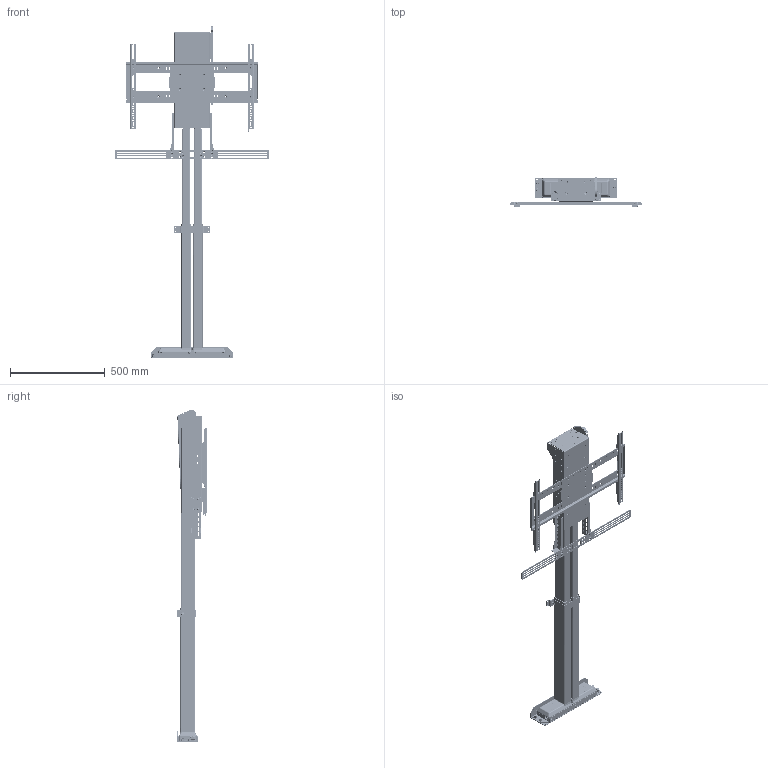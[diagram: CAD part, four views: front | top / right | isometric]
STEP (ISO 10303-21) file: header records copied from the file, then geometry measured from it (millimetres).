
FILE_DESCRIPTION(/* description */ ('STEP AP242','CAx-IF Rec.Pracs.---Representation and Presentation of Product Manufacturing Information (PMI)---4.0---2014-10-13','CAx-IF Rec.Pracs.---3D Tessellated Geometry---0.4---2014-09-14','2;1'),/* implementation_level */ '2;1');
FILE_NAME(/* name */ '654aa1fcc3dc330f76ed94dd',/* time_stamp */ '2023-11-07T20:45:50Z',/* author */ (''),/* organization */ (''),/* preprocessor_version */ 'ST-DEVELOPER v19.4',/* originating_system */ ' ',/* authorisation */ ' ');
FILE_SCHEMA (('AP242_MANAGED_MODEL_BASED_3D_ENGINEERING_MIM_LF { 1 0 10303 442 1 1 4 }'));
Products named in the file (44): DL-65 (HD); WDS8151-215; Socket button head screw M6x1 x 12; Hex socket countersunk head screw M6x1 x 12; OLD_ULS-NX-024 - ULS Hinged Top Guide; Socket button head screw M6x1 x 8; Socket button head screw M6x1 x 16; L-65x SBM Bracket; ULS-NX-032 - HD Quick Release LC Mount; Lift Column H <2>; L45 LC Motor Housing; L45 LC Inner Profile; L45 LC Middle Profile; L65 PS Adapter; ULS-NX-031 - HD QUICK RELEASE BASE MOUNT w/ PEMS <1>; ULS-NX-031 - HD QUICK RELEASE BASE MOUNT; PEM FHS-M6-12  ; ULS-NX-041 -- ULS HD HTG Adapter Plate; ULS-NX-030 - HD REAR SUPPORT w/ PEMs <1>; ULS-NX-030 - HD Rear Support; ULS-NX-029 - HD Column Clamp; ULS-NX-033 - HD LOWER ACCESSORY BRACKET w/ PEMS <1>; ULS-NX-033 - HD LOWER ACCESSORY BRACKET; PEM CLS-M6-1  ; Lift Column H <1>; ULS-NX-033 - HD LOWER ACCESSORY BRACKET w/ PEMS <2>; SS Fixed Short - Rev B2 <1>; PEM CLS-M6-1; PEM Nut F-M4-2; PEM Nut CLSS-M5-1; PS Screen Support Fixed 01; SBP & VMB <1>; PZ Pan head screw M5x0.80 x 25; ULS-NX-118 - UL VMB WELDMENT <1>; 90107A012; PEM BSO-632-10  ZI; VMB Washer; ULS-NX-020 - UL SCREEN LOCK; Socket button head cap screw #6-32 x 0.188; ULS-NX-019 - UL LEVEL ADJUSTMENT PLATE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
Assembly tree (172 placements, depth 4):
  DL-65 (HD)
    WDS8151-215  x6
    Socket button head screw M6x1 x 12  x8
    Hex socket countersunk head screw M6x1 x 12  x17
    OLD_ULS-NX-024 - ULS Hinged Top Guide
    Socket button head screw M6x1 x 8  x4
    Hex socket countersunk head screw M6x1 x 12  x6
    Socket button head screw M6x1 x 16  x8
    L-65x SBM Bracket
    ULS-NX-032 - HD Quick Release LC Mount
    Lift Column H <2>
      L45 LC Motor Housing
      L45 LC Inner Profile
      L45 LC Middle Profile
    L65 PS Adapter
    ULS-NX-031 - HD QUICK RELEASE BASE MOUNT w/ PEMS <1>
      ULS-NX-031 - HD QUICK RELEASE BASE MOUNT
      PEM FHS-M6-12    x4
    ULS-NX-041 -- ULS HD HTG Adapter Plate
    ULS-NX-030 - HD REAR SUPPORT w/ PEMs <1>
      PEM FHS-M6-12    x2
      ULS-NX-030 - HD Rear Support
    ULS-NX-029 - HD Column Clamp
    ULS-NX-033 - HD LOWER ACCESSORY BRACKET w/ PEMS <1>
      ULS-NX-033 - HD LOWER ACCESSORY BRACKET
      PEM CLS-M6-1    x4
    Lift Column H <1>
      L45 LC Inner Profile
      L45 LC Middle Profile
      L45 LC Motor Housing
    ULS-NX-033 - HD LOWER ACCESSORY BRACKET w/ PEMS <2>
      PEM CLS-M6-1    x4
      ULS-NX-033 - HD LOWER ACCESSORY BRACKET
    SS Fixed Short - Rev B2 <1>
      PEM CLS-M6-1  x42
      PEM Nut F-M4-2  x8
      PEM Nut CLSS-M5-1  x2
      PS Screen Support Fixed 01
      L65 PS Adapter
    SBP & VMB <1>
      PZ Pan head screw M5x0.80 x 25  x2
      ULS-NX-118 - UL VMB WELDMENT <1>
        90107A012  x2
        PEM BSO-632-10  ZI  x2
        VMB Washer  x4
        ULS-NX-020 - UL SCREEN LOCK
        Socket button head cap screw #6-32 x 0.188  x2
        ULS-NX-019 - UL LEVEL ADJUSTMENT PLATE
        ULS-NX-018 - UL VERICAL MOUNTING BAR
      ULS-NX-118 - UL VMB WELDMENT <2>
        90107A012  x2
        PEM BSO-632-10  ZI  x2
        ULS-NX-018 - UL VERICAL MOUNTING BAR
        Socket button head cap screw #6-32 x 0.188  x2
        ULS-NX-019 - UL LEVEL ADJUSTMENT PLATE
        VMB Washer  x4
        ULS-NX-020 - UL SCREEN LOCK
      ULS-NX-017 - UL SCREEN BACK PLATE
Bounding box: 812.8 x 155.15 x 1753.51 mm (x, y, z)
Volume: 16099963.4 mm3; surface area: 2537518.6 mm2
Topology: 162 solids, 162 shells, 10621 faces, 27717 edges, 17854 vertices
Faces by surface type: plane 6611, cylinder 2524, cone 764, bspline 431, torus 241, sphere 50
Full cylindrical faces by diameter (mm): 2.642 x4, 3.505 x4, 4 x8, 4.6 x4, 4.917 x50, 5 x44, 5.026 x4, 5.08 x4, 5.277 x8, 5.3 x12, 5.385 x12, 5.41 x8, 5.6 x8, 5.944 x4, 5.994 x4, 6 x69, 6.35 x28, 6.4 x20, 6.6 x18, 6.655 x4, 7.112 x2, 7.37 x16, 8.128 x34, 8.64 x2, 8.73 x50, 8.738 x50, 9.5 x2, 9.525 x8, 11.18 x50, 11.34 x23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
Entity records: 95984 total; most frequent: CARTESIAN_POINT 18506, DIRECTION 15150, ORIENTED_EDGE 14576, EDGE_CURVE 7288, AXIS2_PLACEMENT_3D 5240, VERTEX_POINT 4859, LINE 4670, VECTOR 4670
